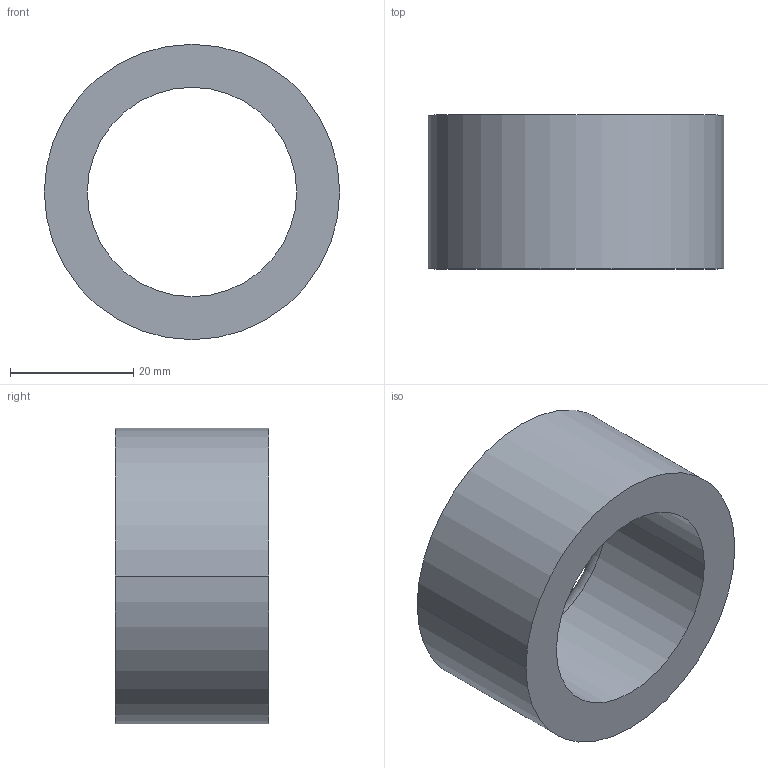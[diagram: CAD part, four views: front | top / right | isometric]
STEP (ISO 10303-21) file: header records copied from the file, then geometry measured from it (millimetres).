
FILE_DESCRIPTION (( 'STEP AP203' ), '1' );
FILE_NAME ('30800.WPP48J34.0.step', '2019-01-23T22:53:02', ( '' ), ( '' ), 'SwSTEP 2.0', 'SolidWorks 2017', '' );
FILE_SCHEMA (( 'CONFIG_CONTROL_DESIGN' ));
Length unit declared in the file: millimetre
Products named in the file (1): 30800.WPP48J34.0
Bounding box: 48 x 25 x 48 mm (x, y, z)
Volume: 22326.5 mm3; surface area: 8110 mm2
Topology: 1 solids, 1 shells, 8 faces, 16 edges, 10 vertices
Faces by surface type: cylinder 4, torus 2, plane 2
Entity records: 297 total; most frequent: DIRECTION 46, CARTESIAN_POINT 35, ORIENTED_EDGE 32, AXIS2_PLACEMENT_3D 21, EDGE_CURVE 16, CIRCLE 12, VERTEX_POINT 10, EDGE_LOOP 10
